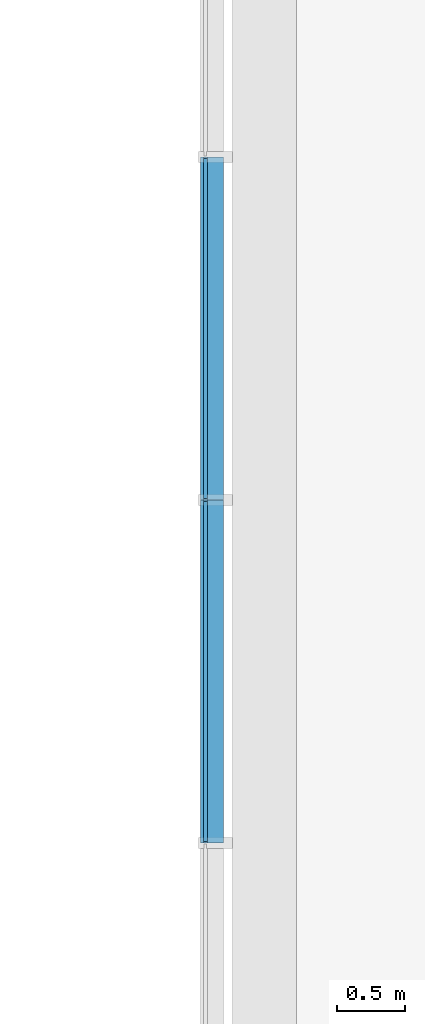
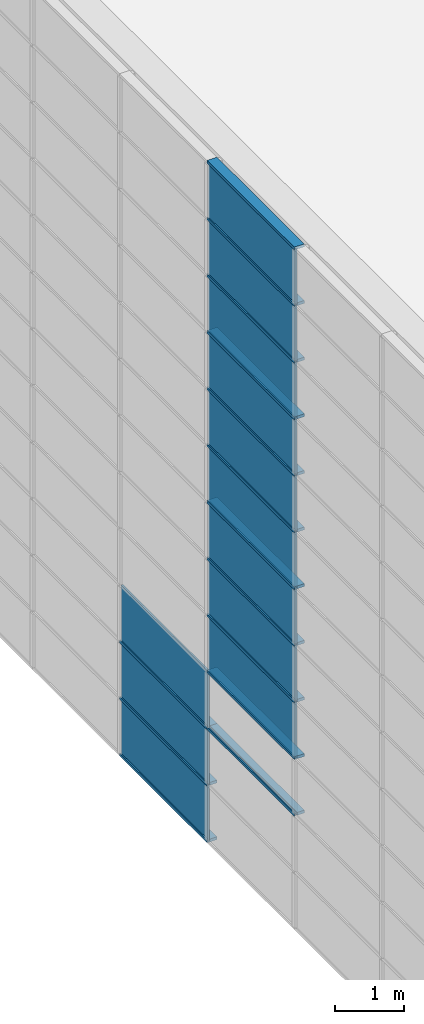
# One storey, part 10 of 105: 29 building element parts, 4 elements without a shape of their own.
"""IFC4 building model written with IfcOpenShell, lengths in millimetres."""

from ifc_helpers import new_model, entity, si_unit, converted_unit, derived_unit, direction, frame, origin_with_axes, place, context, subcontext, project, spatial, triangles, material, element, aggregate, save


model = new_model("IFC4")

# Units and contexts
model_context = context("Model", 3, precision=1e-05, world=origin_with_axes(), true_north=direction((0.0, 1.0)))
body_context = subcontext(model_context, "Body", "Model", "MODEL_VIEW")
ifc_project = project(units=[si_unit("LENGTHUNIT", "METRE", prefix="MILLI"), si_unit("AREAUNIT", "SQUARE_METRE"), si_unit("VOLUMEUNIT", "CUBIC_METRE"), converted_unit("PLANEANGLEUNIT", "DEGREE", entity("IfcLengthMeasure", 0.017453), si_unit("PLANEANGLEUNIT", "RADIAN"), dimensions=[0, 0, 0, 0, 0, 0, 0]), si_unit("SOLIDANGLEUNIT", "STERADIAN"), si_unit("MASSUNIT", "GRAM"), si_unit("TIMEUNIT", "SECOND"), si_unit("THERMODYNAMICTEMPERATUREUNIT", "DEGREE_CELSIUS"), si_unit("LUMINOUSINTENSITYUNIT", "LUMEN"), si_unit("POWERUNIT", "WATT"), derived_unit("THERMALTRANSMITTANCEUNIT", [(si_unit("POWERUNIT", "WATT"), 1), (si_unit("THERMODYNAMICTEMPERATUREUNIT", "KELVIN"), -1), (si_unit("AREAUNIT", "SQUARE_METRE"), -1)])], contexts=[model_context])

# Site, building, storey
site_placement = place(None, origin_with_axes())
site = spatial("IfcSite", under=ifc_project, at=site_placement, Name="Default Site", CompositionType="ELEMENT")
building_placement = place(site_placement, origin_with_axes())
building = spatial("IfcBuilding", under=site, at=building_placement, Name="Default Building", CompositionType="ELEMENT")
storey_placement = place(building_placement, origin_with_axes())
storey = spatial("IfcBuildingStorey", under=building, at=storey_placement, Name="OG - Story", CompositionType="ELEMENT", Elevation=0.0)

# Curtain wall, building element parts
curtain_wall_1_placement = place(storey_placement, origin_with_axes())
curtain_wall_1 = element("IfcCurtainWall", 1, at=curtain_wall_1_placement, inside=storey, Name="Fassade-003", PredefinedType="NOTDEFINED")
ifc_material_1 = material(Name="Normalglas")
building_element_part_1_placement = place(curtain_wall_1_placement, frame((31551.391327, -51326.104944, 0.0), z_axis=(0.0, 0.0, 1.0), x_axis=(1.0, 0.0, 0.0)))
building_element_part_1 = element("IfcBuildingElementPart", 2, at=building_element_part_1_placement, material=ifc_material_1, Name="Normalglas", PredefinedType="NOTDEFINED", context=body_context, shape_type="Tessellation", body=[
    triangles([(15.0, 13884.737, 995.0), (-14.999, 13884.737, 995.0), (-14.999, 11378.421, 995.0), (15.0, 11378.421, 995.0), (15.0, 13884.737, 5.0), (-14.999, 13884.737, 5.0), (-14.999, 11378.421, 5.0), (15.0, 11378.421, 5.0)], [[1, 2, 3], [1, 3, 4], [5, 6, 2], [5, 2, 1], [2, 6, 7], [2, 7, 3], [4, 3, 7], [4, 7, 8], [1, 4, 8], [1, 8, 5], [8, 7, 6], [8, 6, 5]], closed=False),
])
building_element_part_2_placement = place(curtain_wall_1_placement, frame((31551.391327, -51326.104944, 0.0), z_axis=(0.0, 0.0, 1.0), x_axis=(1.0, 0.0, 0.0)))
building_element_part_2 = element("IfcBuildingElementPart", 3, at=building_element_part_2_placement, material=ifc_material_1, Name="Normalglas", PredefinedType="NOTDEFINED", context=body_context, shape_type="Tessellation", body=[
    triangles([(15.0, 13884.737, 1995.0), (-14.999, 13884.737, 1995.0), (-14.999, 11378.421, 1995.0), (15.0, 11378.421, 1995.0), (15.0, 13884.737, 1005.0), (-14.999, 13884.737, 1005.0), (-14.999, 11378.421, 1005.0), (15.0, 11378.421, 1005.0)], [[1, 2, 3], [1, 3, 4], [5, 6, 2], [5, 2, 1], [2, 6, 7], [2, 7, 3], [4, 3, 7], [4, 7, 8], [1, 4, 8], [1, 8, 5], [8, 7, 6], [8, 6, 5]], closed=False),
])
building_element_part_3_placement = place(curtain_wall_1_placement, frame((31551.391327, -51326.104944, 0.0), z_axis=(0.0, 0.0, 1.0), x_axis=(1.0, 0.0, 0.0)))
building_element_part_3 = element("IfcBuildingElementPart", 4, at=building_element_part_3_placement, material=ifc_material_1, Name="Normalglas", PredefinedType="NOTDEFINED", context=body_context, shape_type="Tessellation", body=[
    triangles([(15.0, 13884.737, 2995.0), (-14.999, 13884.737, 2995.0), (-14.999, 11378.421, 2995.0), (15.0, 11378.421, 2995.0), (15.0, 13884.737, 2005.0), (-14.999, 13884.737, 2005.0), (-14.999, 11378.421, 2005.0), (15.0, 11378.421, 2005.0)], [[1, 2, 3], [1, 3, 4], [5, 6, 2], [5, 2, 1], [2, 6, 7], [2, 7, 3], [4, 3, 7], [4, 7, 8], [1, 4, 8], [1, 8, 5], [8, 7, 6], [8, 6, 5]], closed=False),
])
ifc_material_2 = material(Name="Blech")
building_element_part_4_placement = place(curtain_wall_1_placement, frame((31551.391327, -51326.104944, 0.0), z_axis=(0.0, 0.0, 1.0), x_axis=(1.0, 0.0, 0.0)))
building_element_part_4 = element("IfcBuildingElementPart", 5, at=building_element_part_4_placement, material=ifc_material_2, Name="Blech", PredefinedType="NOTDEFINED", context=body_context, shape_type="Tessellation", body=[
    triangles([(15.0, 13894.737, 25.0), (133.0, 13894.737, 25.0), (15.0, 13894.737, 5.0), (133.0, 13894.737, -24.999), (-14.999, 13894.737, 5.0), (-34.999, 13894.737, -24.999), (-34.999, 13894.737, 25.0), (-14.999, 13894.737, 25.0), (15.0, 11368.421, 5.0), (15.0, 11368.421, 25.0), (133.0, 11368.421, 25.0), (133.0, 11368.421, -24.999), (-34.999, 11368.421, -24.999), (-34.999, 11368.421, 25.0), (-14.999, 11368.421, 25.0), (-14.999, 11368.421, 5.0)], [[1, 2, 3], [3, 2, 4], [3, 4, 5], [5, 4, 6], [5, 6, 7], [5, 7, 8], [3, 9, 10], [3, 10, 1], [10, 11, 2], [10, 2, 1], [11, 12, 4], [11, 4, 2], [12, 13, 6], [12, 6, 4], [13, 14, 7], [13, 7, 6], [8, 7, 14], [8, 14, 15], [15, 16, 5], [15, 5, 8], [5, 16, 9], [5, 9, 3], [16, 9, 12], [16, 12, 13], [16, 13, 14], [16, 14, 15], [11, 12, 9], [11, 9, 10]], closed=False),
])
building_element_part_5_placement = place(curtain_wall_1_placement, frame((31551.391327, -51326.104944, 0.0), z_axis=(0.0, 0.0, 1.0), x_axis=(1.0, 0.0, 0.0)))
building_element_part_5 = element("IfcBuildingElementPart", 6, at=building_element_part_5_placement, material=ifc_material_2, Name="Blech", PredefinedType="NOTDEFINED", context=body_context, shape_type="Tessellation", body=[
    triangles([(-14.999, 13894.737, 1025.0), (-34.999, 13894.737, 1025.0), (-14.999, 13894.737, 1005.0), (-14.999, 13894.737, 995.0), (15.0, 13894.737, 1005.0), (133.0, 13894.737, 1025.0), (15.0, 13894.737, 1025.0), (-34.999, 13894.737, 975.0), (-14.999, 13894.737, 975.0), (15.0, 13894.737, 995.0), (15.0, 13894.737, 975.0), (133.0, 13894.737, 975.0), (15.0, 11368.421, 995.0), (-14.999, 11368.421, 995.0), (-14.999, 11368.421, 975.0), (-34.999, 11368.421, 975.0), (-34.999, 11368.421, 1025.0), (-14.999, 11368.421, 1025.0), (-14.999, 11368.421, 1005.0), (15.0, 11368.421, 1005.0), (15.0, 11368.421, 1025.0), (133.0, 11368.421, 1025.0), (133.0, 11368.421, 975.0), (15.0, 11368.421, 975.0)], [[1, 2, 3], [3, 2, 4], [3, 4, 5], [5, 4, 6], [5, 6, 7], [8, 9, 4], [8, 4, 2], [6, 4, 10], [6, 10, 11], [6, 11, 12], [10, 13, 14], [10, 14, 4], [4, 14, 15], [4, 15, 9], [15, 16, 8], [15, 8, 9], [8, 16, 17], [8, 17, 2], [18, 1, 2], [18, 2, 17], [1, 18, 19], [1, 19, 3], [5, 3, 19], [5, 19, 20], [7, 5, 20], [7, 20, 21], [7, 21, 22], [7, 22, 6], [6, 22, 23], [6, 23, 12], [11, 12, 23], [11, 23, 24], [11, 24, 13], [11, 13, 10], [21, 22, 20], [20, 22, 13], [20, 13, 19], [19, 13, 14], [19, 14, 17], [17, 14, 15], [17, 15, 16], [23, 24, 13], [23, 13, 22], [19, 17, 18]], closed=False),
])
building_element_part_6_placement = place(curtain_wall_1_placement, frame((31551.391327, -51326.104944, 0.0), z_axis=(0.0, 0.0, 1.0), x_axis=(1.0, 0.0, 0.0)))
building_element_part_6 = element("IfcBuildingElementPart", 7, at=building_element_part_6_placement, material=ifc_material_2, Name="Blech", PredefinedType="NOTDEFINED", context=body_context, shape_type="Tessellation", body=[
    triangles([(-14.999, 11368.421, 2025.0), (-34.999, 11368.421, 2025.0), (-14.999, 11368.421, 2005.0), (-14.999, 11368.421, 1995.0), (15.0, 11368.421, 2005.0), (133.0, 11368.421, 2025.0), (15.0, 11368.421, 2025.0), (-34.999, 11368.421, 1975.0), (-14.999, 11368.421, 1975.0), (15.0, 11368.421, 1995.0), (15.0, 11368.421, 1975.0), (133.0, 11368.421, 1975.0), (15.0, 8842.105, 1995.0), (-14.999, 8842.105, 1995.0), (-14.999, 8842.105, 1975.0), (-34.999, 8842.105, 1975.0), (-34.999, 8842.105, 2025.0), (-14.999, 8842.105, 2025.0), (-14.999, 8842.105, 2005.0), (15.0, 8842.105, 2005.0), (15.0, 8842.105, 2025.0), (133.0, 8842.105, 2025.0), (133.0, 8842.105, 1975.0), (15.0, 8842.105, 1975.0)], [[1, 2, 3], [3, 2, 4], [3, 4, 5], [5, 4, 6], [5, 6, 7], [8, 9, 4], [8, 4, 2], [6, 4, 10], [6, 10, 11], [6, 11, 12], [10, 13, 14], [10, 14, 4], [4, 14, 15], [4, 15, 9], [15, 16, 8], [15, 8, 9], [8, 16, 17], [8, 17, 2], [18, 1, 2], [18, 2, 17], [1, 18, 19], [1, 19, 3], [5, 3, 19], [5, 19, 20], [7, 5, 20], [7, 20, 21], [7, 21, 22], [7, 22, 6], [6, 22, 23], [6, 23, 12], [11, 12, 23], [11, 23, 24], [11, 24, 13], [11, 13, 10], [21, 22, 20], [20, 22, 13], [20, 13, 19], [19, 13, 14], [19, 14, 17], [17, 14, 15], [17, 15, 16], [23, 24, 13], [23, 13, 22], [19, 17, 18]], closed=False),
])
building_element_part_7_placement = place(curtain_wall_1_placement, frame((31551.391327, -51326.104944, 0.0), z_axis=(0.0, 0.0, 1.0), x_axis=(1.0, 0.0, 0.0)))
building_element_part_7 = element("IfcBuildingElementPart", 8, at=building_element_part_7_placement, material=ifc_material_2, Name="Blech", PredefinedType="NOTDEFINED", context=body_context, shape_type="Tessellation", body=[
    triangles([(-14.999, 11368.421, 2995.0), (15.0, 11368.421, 2995.0), (133.0, 11368.421, 3025.0), (-34.999, 11368.421, 3025.0), (-34.999, 11368.421, 2975.0), (-14.999, 11368.421, 2975.0), (15.0, 11368.421, 2975.0), (133.0, 11368.421, 2975.0), (15.0, 8842.105, 2995.0), (-14.999, 8842.105, 2995.0), (-14.999, 8842.105, 2975.0), (-34.999, 8842.105, 2975.0), (-34.999, 8842.105, 3025.0), (133.0, 8842.105, 3025.0), (133.0, 8842.105, 2975.0), (15.0, 8842.105, 2975.0)], [[1, 2, 3], [1, 3, 4], [1, 4, 5], [1, 5, 6], [7, 8, 3], [7, 3, 2], [1, 2, 9], [1, 9, 10], [11, 6, 1], [11, 1, 10], [6, 11, 12], [6, 12, 5], [13, 4, 5], [13, 5, 12], [14, 3, 4], [14, 4, 13], [15, 8, 3], [15, 3, 14], [16, 7, 8], [16, 8, 15], [2, 7, 16], [2, 16, 9], [10, 9, 14], [10, 14, 13], [10, 13, 12], [10, 12, 11], [16, 15, 14], [16, 14, 9]], closed=False),
])
building_element_part_8_placement = place(curtain_wall_1_placement, frame((31551.391327, -51326.104944, 0.0), z_axis=(0.0, 0.0, 1.0), x_axis=(1.0, 0.0, 0.0)))
building_element_part_8 = element("IfcBuildingElementPart", 9, at=building_element_part_8_placement, material=ifc_material_2, Name="Blech", PredefinedType="NOTDEFINED", context=body_context, shape_type="Tessellation", body=[
    triangles([(-14.999, 13894.737, 2025.0), (-34.999, 13894.737, 2025.0), (-14.999, 13894.737, 2005.0), (-14.999, 13894.737, 1995.0), (15.0, 13894.737, 2005.0), (133.0, 13894.737, 2025.0), (15.0, 13894.737, 2025.0), (-34.999, 13894.737, 1975.0), (-14.999, 13894.737, 1975.0), (15.0, 13894.737, 1995.0), (15.0, 13894.737, 1975.0), (133.0, 13894.737, 1975.0), (15.0, 11368.421, 1995.0), (-14.999, 11368.421, 1995.0), (-14.999, 11368.421, 1975.0), (-34.999, 11368.421, 1975.0), (-34.999, 11368.421, 2025.0), (-14.999, 11368.421, 2025.0), (-14.999, 11368.421, 2005.0), (15.0, 11368.421, 2005.0), (15.0, 11368.421, 2025.0), (133.0, 11368.421, 2025.0), (133.0, 11368.421, 1975.0), (15.0, 11368.421, 1975.0)], [[1, 2, 3], [3, 2, 4], [3, 4, 5], [5, 4, 6], [5, 6, 7], [8, 9, 4], [8, 4, 2], [6, 4, 10], [6, 10, 11], [6, 11, 12], [10, 13, 14], [10, 14, 4], [4, 14, 15], [4, 15, 9], [15, 16, 8], [15, 8, 9], [8, 16, 17], [8, 17, 2], [18, 1, 2], [18, 2, 17], [1, 18, 19], [1, 19, 3], [5, 3, 19], [5, 19, 20], [7, 5, 20], [7, 20, 21], [7, 21, 22], [7, 22, 6], [6, 22, 23], [6, 23, 12], [11, 12, 23], [11, 23, 24], [11, 24, 13], [11, 13, 10], [21, 22, 20], [20, 22, 13], [20, 13, 19], [19, 13, 14], [19, 14, 17], [17, 14, 15], [17, 15, 16], [23, 24, 13], [23, 13, 22], [19, 17, 18]], closed=False),
])
aggregate(curtain_wall_1, [building_element_part_1, building_element_part_2, building_element_part_3, building_element_part_4, building_element_part_5, building_element_part_6, building_element_part_7, building_element_part_8])

curtain_wall_2_placement = place(storey_placement, origin_with_axes())
curtain_wall_2 = element("IfcCurtainWall", 10, at=curtain_wall_2_placement, inside=storey, Name="Fassade-003", PredefinedType="NOTDEFINED")
building_element_part_9_placement = place(curtain_wall_2_placement, frame((31551.391327, -51326.104944, 3000.0), z_axis=(0.0, 0.0, 1.0), x_axis=(1.0, 0.0, 0.0)))
building_element_part_9 = element("IfcBuildingElementPart", 11, at=building_element_part_9_placement, material=ifc_material_1, Name="Normalglas", PredefinedType="NOTDEFINED", context=body_context, shape_type="Tessellation", body=[
    triangles([(15.0, 11358.421, 995.0), (-14.999, 11358.421, 995.0), (-14.999, 8852.105, 995.0), (15.0, 8852.105, 995.0), (15.0, 11358.421, 5.0), (-14.999, 11358.421, 5.0), (-14.999, 8852.105, 5.0), (15.0, 8852.105, 5.0)], [[1, 2, 3], [1, 3, 4], [5, 6, 2], [5, 2, 1], [2, 6, 7], [2, 7, 3], [4, 3, 7], [4, 7, 8], [1, 4, 8], [1, 8, 5], [8, 7, 6], [8, 6, 5]], closed=False),
])
building_element_part_10_placement = place(curtain_wall_2_placement, frame((31551.391327, -51326.104944, 3000.0), z_axis=(0.0, 0.0, 1.0), x_axis=(1.0, 0.0, 0.0)))
building_element_part_10 = element("IfcBuildingElementPart", 12, at=building_element_part_10_placement, material=ifc_material_1, Name="Normalglas", PredefinedType="NOTDEFINED", context=body_context, shape_type="Tessellation", body=[
    triangles([(15.0, 11358.421, 1995.0), (-14.999, 11358.421, 1995.0), (-14.999, 8852.105, 1995.0), (15.0, 8852.105, 1995.0), (15.0, 11358.421, 1005.0), (-14.999, 11358.421, 1005.0), (-14.999, 8852.105, 1005.0), (15.0, 8852.105, 1005.0)], [[1, 2, 3], [1, 3, 4], [5, 6, 2], [5, 2, 1], [2, 6, 7], [2, 7, 3], [4, 3, 7], [4, 7, 8], [1, 4, 8], [1, 8, 5], [8, 7, 6], [8, 6, 5]], closed=False),
])
building_element_part_11_placement = place(curtain_wall_2_placement, frame((31551.391327, -51326.104944, 3000.0), z_axis=(0.0, 0.0, 1.0), x_axis=(1.0, 0.0, 0.0)))
building_element_part_11 = element("IfcBuildingElementPart", 13, at=building_element_part_11_placement, material=ifc_material_1, Name="Normalglas", PredefinedType="NOTDEFINED", context=body_context, shape_type="Tessellation", body=[
    triangles([(15.0, 11358.421, 2995.0), (-14.999, 11358.421, 2995.0), (-14.999, 8852.105, 2995.0), (15.0, 8852.105, 2995.0), (15.0, 11358.421, 2005.0), (-14.999, 11358.421, 2005.0), (-14.999, 8852.105, 2005.0), (15.0, 8852.105, 2005.0)], [[1, 2, 3], [1, 3, 4], [5, 6, 2], [5, 2, 1], [2, 6, 7], [2, 7, 3], [4, 3, 7], [4, 7, 8], [1, 4, 8], [1, 8, 5], [8, 7, 6], [8, 6, 5]], closed=False),
])
building_element_part_12_placement = place(curtain_wall_2_placement, frame((31551.391327, -51326.104944, 3000.0), z_axis=(0.0, 0.0, 1.0), x_axis=(1.0, 0.0, 0.0)))
building_element_part_12 = element("IfcBuildingElementPart", 14, at=building_element_part_12_placement, material=ifc_material_2, Name="Blech", PredefinedType="NOTDEFINED", context=body_context, shape_type="Tessellation", body=[
    triangles([(15.0, 11368.421, 25.0), (133.0, 11368.421, 25.0), (15.0, 11368.421, 5.0), (133.0, 11368.421, -24.999), (-14.999, 11368.421, 5.0), (-34.999, 11368.421, -24.999), (-34.999, 11368.421, 25.0), (-14.999, 11368.421, 25.0), (15.0, 8842.105, 5.0), (15.0, 8842.105, 25.0), (133.0, 8842.105, 25.0), (133.0, 8842.105, -24.999), (-34.999, 8842.105, -24.999), (-34.999, 8842.105, 25.0), (-14.999, 8842.105, 25.0), (-14.999, 8842.105, 5.0)], [[1, 2, 3], [3, 2, 4], [3, 4, 5], [5, 4, 6], [5, 6, 7], [5, 7, 8], [3, 9, 10], [3, 10, 1], [10, 11, 2], [10, 2, 1], [11, 12, 4], [11, 4, 2], [12, 13, 6], [12, 6, 4], [13, 14, 7], [13, 7, 6], [8, 7, 14], [8, 14, 15], [15, 16, 5], [15, 5, 8], [5, 16, 9], [5, 9, 3], [16, 9, 12], [16, 12, 13], [16, 13, 14], [16, 14, 15], [11, 12, 9], [11, 9, 10]], closed=False),
])
building_element_part_13_placement = place(curtain_wall_2_placement, frame((31551.391327, -51326.104944, 3000.0), z_axis=(0.0, 0.0, 1.0), x_axis=(1.0, 0.0, 0.0)))
building_element_part_13 = element("IfcBuildingElementPart", 15, at=building_element_part_13_placement, material=ifc_material_2, Name="Blech", PredefinedType="NOTDEFINED", context=body_context, shape_type="Tessellation", body=[
    triangles([(-14.999, 11368.421, 1025.0), (-34.999, 11368.421, 1025.0), (-14.999, 11368.421, 1005.0), (-14.999, 11368.421, 995.0), (15.0, 11368.421, 1005.0), (133.0, 11368.421, 1025.0), (15.0, 11368.421, 1025.0), (-34.999, 11368.421, 975.0), (-14.999, 11368.421, 975.0), (15.0, 11368.421, 995.0), (15.0, 11368.421, 975.0), (133.0, 11368.421, 975.0), (15.0, 8842.105, 995.0), (-14.999, 8842.105, 995.0), (-14.999, 8842.105, 975.0), (-34.999, 8842.105, 975.0), (-34.999, 8842.105, 1025.0), (-14.999, 8842.105, 1025.0), (-14.999, 8842.105, 1005.0), (15.0, 8842.105, 1005.0), (15.0, 8842.105, 1025.0), (133.0, 8842.105, 1025.0), (133.0, 8842.105, 975.0), (15.0, 8842.105, 975.0)], [[1, 2, 3], [3, 2, 4], [3, 4, 5], [5, 4, 6], [5, 6, 7], [8, 9, 4], [8, 4, 2], [6, 4, 10], [6, 10, 11], [6, 11, 12], [10, 13, 14], [10, 14, 4], [4, 14, 15], [4, 15, 9], [15, 16, 8], [15, 8, 9], [8, 16, 17], [8, 17, 2], [18, 1, 2], [18, 2, 17], [1, 18, 19], [1, 19, 3], [5, 3, 19], [5, 19, 20], [7, 5, 20], [7, 20, 21], [7, 21, 22], [7, 22, 6], [6, 22, 23], [6, 23, 12], [11, 12, 23], [11, 23, 24], [11, 24, 13], [11, 13, 10], [21, 22, 20], [20, 22, 13], [20, 13, 19], [19, 13, 14], [19, 14, 17], [17, 14, 15], [17, 15, 16], [23, 24, 13], [23, 13, 22], [19, 17, 18]], closed=False),
])
building_element_part_14_placement = place(curtain_wall_2_placement, frame((31551.391327, -51326.104944, 3000.0), z_axis=(0.0, 0.0, 1.0), x_axis=(1.0, 0.0, 0.0)))
building_element_part_14 = element("IfcBuildingElementPart", 16, at=building_element_part_14_placement, material=ifc_material_2, Name="Blech", PredefinedType="NOTDEFINED", context=body_context, shape_type="Tessellation", body=[
    triangles([(-14.999, 11368.421, 2025.0), (-34.999, 11368.421, 2025.0), (-14.999, 11368.421, 2005.0), (-14.999, 11368.421, 1995.0), (15.0, 11368.421, 2005.0), (133.0, 11368.421, 2025.0), (15.0, 11368.421, 2025.0), (-34.999, 11368.421, 1975.0), (-14.999, 11368.421, 1975.0), (15.0, 11368.421, 1995.0), (15.0, 11368.421, 1975.0), (133.0, 11368.421, 1975.0), (15.0, 8842.105, 1995.0), (-14.999, 8842.105, 1995.0), (-14.999, 8842.105, 1975.0), (-34.999, 8842.105, 1975.0), (-34.999, 8842.105, 2025.0), (-14.999, 8842.105, 2025.0), (-14.999, 8842.105, 2005.0), (15.0, 8842.105, 2005.0), (15.0, 8842.105, 2025.0), (133.0, 8842.105, 2025.0), (133.0, 8842.105, 1975.0), (15.0, 8842.105, 1975.0)], [[1, 2, 3], [3, 2, 4], [3, 4, 5], [5, 4, 6], [5, 6, 7], [8, 9, 4], [8, 4, 2], [6, 4, 10], [6, 10, 11], [6, 11, 12], [10, 13, 14], [10, 14, 4], [4, 14, 15], [4, 15, 9], [15, 16, 8], [15, 8, 9], [8, 16, 17], [8, 17, 2], [18, 1, 2], [18, 2, 17], [1, 18, 19], [1, 19, 3], [5, 3, 19], [5, 19, 20], [7, 5, 20], [7, 20, 21], [7, 21, 22], [7, 22, 6], [6, 22, 23], [6, 23, 12], [11, 12, 23], [11, 23, 24], [11, 24, 13], [11, 13, 10], [21, 22, 20], [20, 22, 13], [20, 13, 19], [19, 13, 14], [19, 14, 17], [17, 14, 15], [17, 15, 16], [23, 24, 13], [23, 13, 22], [19, 17, 18]], closed=False),
])
building_element_part_15_placement = place(curtain_wall_2_placement, frame((31551.391327, -51326.104944, 3000.0), z_axis=(0.0, 0.0, 1.0), x_axis=(1.0, 0.0, 0.0)))
building_element_part_15 = element("IfcBuildingElementPart", 17, at=building_element_part_15_placement, material=ifc_material_2, Name="Blech", PredefinedType="NOTDEFINED", context=body_context, shape_type="Tessellation", body=[
    triangles([(-14.999, 11368.421, 2995.0), (15.0, 11368.421, 2995.0), (133.0, 11368.421, 3025.0), (-34.999, 11368.421, 3025.0), (-34.999, 11368.421, 2975.0), (-14.999, 11368.421, 2975.0), (15.0, 11368.421, 2975.0), (133.0, 11368.421, 2975.0), (15.0, 8842.105, 2995.0), (-14.999, 8842.105, 2995.0), (-14.999, 8842.105, 2975.0), (-34.999, 8842.105, 2975.0), (-34.999, 8842.105, 3025.0), (133.0, 8842.105, 3025.0), (133.0, 8842.105, 2975.0), (15.0, 8842.105, 2975.0)], [[1, 2, 3], [1, 3, 4], [1, 4, 5], [1, 5, 6], [7, 8, 3], [7, 3, 2], [1, 2, 9], [1, 9, 10], [11, 6, 1], [11, 1, 10], [6, 11, 12], [6, 12, 5], [13, 4, 5], [13, 5, 12], [14, 3, 4], [14, 4, 13], [15, 8, 3], [15, 3, 14], [16, 7, 8], [16, 8, 15], [2, 7, 16], [2, 16, 9], [10, 9, 14], [10, 14, 13], [10, 13, 12], [10, 12, 11], [16, 15, 14], [16, 14, 9]], closed=False),
])
aggregate(curtain_wall_2, [building_element_part_9, building_element_part_10, building_element_part_11, building_element_part_12, building_element_part_13, building_element_part_14, building_element_part_15])

curtain_wall_3_placement = place(storey_placement, origin_with_axes())
curtain_wall_3 = element("IfcCurtainWall", 18, at=curtain_wall_3_placement, inside=storey, Name="Fassade-003", PredefinedType="NOTDEFINED")
building_element_part_16_placement = place(curtain_wall_3_placement, frame((31551.391327, -51326.104944, 6000.0), z_axis=(0.0, 0.0, 1.0), x_axis=(1.0, 0.0, 0.0)))
building_element_part_16 = element("IfcBuildingElementPart", 19, at=building_element_part_16_placement, material=ifc_material_1, Name="Normalglas", PredefinedType="NOTDEFINED", context=body_context, shape_type="Tessellation", body=[
    triangles([(15.0, 11358.421, 995.0), (-14.999, 11358.421, 995.0), (-14.999, 8852.105, 995.0), (15.0, 8852.105, 995.0), (15.0, 11358.421, 5.0), (-14.999, 11358.421, 5.0), (-14.999, 8852.105, 5.0), (15.0, 8852.105, 5.0)], [[1, 2, 3], [1, 3, 4], [5, 6, 2], [5, 2, 1], [2, 6, 7], [2, 7, 3], [4, 3, 7], [4, 7, 8], [1, 4, 8], [1, 8, 5], [8, 7, 6], [8, 6, 5]], closed=False),
])
building_element_part_17_placement = place(curtain_wall_3_placement, frame((31551.391327, -51326.104944, 6000.0), z_axis=(0.0, 0.0, 1.0), x_axis=(1.0, 0.0, 0.0)))
building_element_part_17 = element("IfcBuildingElementPart", 20, at=building_element_part_17_placement, material=ifc_material_1, Name="Normalglas", PredefinedType="NOTDEFINED", context=body_context, shape_type="Tessellation", body=[
    triangles([(15.0, 11358.421, 1995.0), (-14.999, 11358.421, 1995.0), (-14.999, 8852.105, 1995.0), (15.0, 8852.105, 1995.0), (15.0, 11358.421, 1005.0), (-14.999, 11358.421, 1005.0), (-14.999, 8852.105, 1005.0), (15.0, 8852.105, 1005.0)], [[1, 2, 3], [1, 3, 4], [5, 6, 2], [5, 2, 1], [2, 6, 7], [2, 7, 3], [4, 3, 7], [4, 7, 8], [1, 4, 8], [1, 8, 5], [8, 7, 6], [8, 6, 5]], closed=False),
])
building_element_part_18_placement = place(curtain_wall_3_placement, frame((31551.391327, -51326.104944, 6000.0), z_axis=(0.0, 0.0, 1.0), x_axis=(1.0, 0.0, 0.0)))
building_element_part_18 = element("IfcBuildingElementPart", 21, at=building_element_part_18_placement, material=ifc_material_1, Name="Normalglas", PredefinedType="NOTDEFINED", context=body_context, shape_type="Tessellation", body=[
    triangles([(15.0, 11358.421, 2995.0), (-14.999, 11358.421, 2995.0), (-14.999, 8852.105, 2995.0), (15.0, 8852.105, 2995.0), (15.0, 11358.421, 2005.0), (-14.999, 11358.421, 2005.0), (-14.999, 8852.105, 2005.0), (15.0, 8852.105, 2005.0)], [[1, 2, 3], [1, 3, 4], [5, 6, 2], [5, 2, 1], [2, 6, 7], [2, 7, 3], [4, 3, 7], [4, 7, 8], [1, 4, 8], [1, 8, 5], [8, 7, 6], [8, 6, 5]], closed=False),
])
building_element_part_19_placement = place(curtain_wall_3_placement, frame((31551.391327, -51326.104944, 6000.0), z_axis=(0.0, 0.0, 1.0), x_axis=(1.0, 0.0, 0.0)))
building_element_part_19 = element("IfcBuildingElementPart", 22, at=building_element_part_19_placement, material=ifc_material_2, Name="Blech", PredefinedType="NOTDEFINED", context=body_context, shape_type="Tessellation", body=[
    triangles([(15.0, 11368.421, 25.0), (133.0, 11368.421, 25.0), (15.0, 11368.421, 5.0), (133.0, 11368.421, -24.999), (-14.999, 11368.421, 5.0), (-34.999, 11368.421, -24.999), (-34.999, 11368.421, 25.0), (-14.999, 11368.421, 25.0), (15.0, 8842.105, 5.0), (15.0, 8842.105, 25.0), (133.0, 8842.105, 25.0), (133.0, 8842.105, -24.999), (-34.999, 8842.105, -24.999), (-34.999, 8842.105, 25.0), (-14.999, 8842.105, 25.0), (-14.999, 8842.105, 5.0)], [[1, 2, 3], [3, 2, 4], [3, 4, 5], [5, 4, 6], [5, 6, 7], [5, 7, 8], [3, 9, 10], [3, 10, 1], [10, 11, 2], [10, 2, 1], [11, 12, 4], [11, 4, 2], [12, 13, 6], [12, 6, 4], [13, 14, 7], [13, 7, 6], [8, 7, 14], [8, 14, 15], [15, 16, 5], [15, 5, 8], [5, 16, 9], [5, 9, 3], [16, 9, 12], [16, 12, 13], [16, 13, 14], [16, 14, 15], [11, 12, 9], [11, 9, 10]], closed=False),
])
building_element_part_20_placement = place(curtain_wall_3_placement, frame((31551.391327, -51326.104944, 6000.0), z_axis=(0.0, 0.0, 1.0), x_axis=(1.0, 0.0, 0.0)))
building_element_part_20 = element("IfcBuildingElementPart", 23, at=building_element_part_20_placement, material=ifc_material_2, Name="Blech", PredefinedType="NOTDEFINED", context=body_context, shape_type="Tessellation", body=[
    triangles([(-14.999, 11368.421, 1025.0), (-34.999, 11368.421, 1025.0), (-14.999, 11368.421, 1005.0), (-14.999, 11368.421, 995.0), (15.0, 11368.421, 1005.0), (133.0, 11368.421, 1025.0), (15.0, 11368.421, 1025.0), (-34.999, 11368.421, 975.0), (-14.999, 11368.421, 975.0), (15.0, 11368.421, 995.0), (15.0, 11368.421, 975.0), (133.0, 11368.421, 975.0), (15.0, 8842.105, 995.0), (-14.999, 8842.105, 995.0), (-14.999, 8842.105, 975.0), (-34.999, 8842.105, 975.0), (-34.999, 8842.105, 1025.0), (-14.999, 8842.105, 1025.0), (-14.999, 8842.105, 1005.0), (15.0, 8842.105, 1005.0), (15.0, 8842.105, 1025.0), (133.0, 8842.105, 1025.0), (133.0, 8842.105, 975.0), (15.0, 8842.105, 975.0)], [[1, 2, 3], [3, 2, 4], [3, 4, 5], [5, 4, 6], [5, 6, 7], [8, 9, 4], [8, 4, 2], [6, 4, 10], [6, 10, 11], [6, 11, 12], [10, 13, 14], [10, 14, 4], [4, 14, 15], [4, 15, 9], [15, 16, 8], [15, 8, 9], [8, 16, 17], [8, 17, 2], [18, 1, 2], [18, 2, 17], [1, 18, 19], [1, 19, 3], [5, 3, 19], [5, 19, 20], [7, 5, 20], [7, 20, 21], [7, 21, 22], [7, 22, 6], [6, 22, 23], [6, 23, 12], [11, 12, 23], [11, 23, 24], [11, 24, 13], [11, 13, 10], [21, 22, 20], [20, 22, 13], [20, 13, 19], [19, 13, 14], [19, 14, 17], [17, 14, 15], [17, 15, 16], [23, 24, 13], [23, 13, 22], [19, 17, 18]], closed=False),
])
building_element_part_21_placement = place(curtain_wall_3_placement, frame((31551.391327, -51326.104944, 6000.0), z_axis=(0.0, 0.0, 1.0), x_axis=(1.0, 0.0, 0.0)))
building_element_part_21 = element("IfcBuildingElementPart", 24, at=building_element_part_21_placement, material=ifc_material_2, Name="Blech", PredefinedType="NOTDEFINED", context=body_context, shape_type="Tessellation", body=[
    triangles([(-14.999, 11368.421, 2025.0), (-34.999, 11368.421, 2025.0), (-14.999, 11368.421, 2005.0), (-14.999, 11368.421, 1995.0), (15.0, 11368.421, 2005.0), (133.0, 11368.421, 2025.0), (15.0, 11368.421, 2025.0), (-34.999, 11368.421, 1975.0), (-14.999, 11368.421, 1975.0), (15.0, 11368.421, 1995.0), (15.0, 11368.421, 1975.0), (133.0, 11368.421, 1975.0), (15.0, 8842.105, 1995.0), (-14.999, 8842.105, 1995.0), (-14.999, 8842.105, 1975.0), (-34.999, 8842.105, 1975.0), (-34.999, 8842.105, 2025.0), (-14.999, 8842.105, 2025.0), (-14.999, 8842.105, 2005.0), (15.0, 8842.105, 2005.0), (15.0, 8842.105, 2025.0), (133.0, 8842.105, 2025.0), (133.0, 8842.105, 1975.0), (15.0, 8842.105, 1975.0)], [[1, 2, 3], [3, 2, 4], [3, 4, 5], [5, 4, 6], [5, 6, 7], [8, 9, 4], [8, 4, 2], [6, 4, 10], [6, 10, 11], [6, 11, 12], [10, 13, 14], [10, 14, 4], [4, 14, 15], [4, 15, 9], [15, 16, 8], [15, 8, 9], [8, 16, 17], [8, 17, 2], [18, 1, 2], [18, 2, 17], [1, 18, 19], [1, 19, 3], [5, 3, 19], [5, 19, 20], [7, 5, 20], [7, 20, 21], [7, 21, 22], [7, 22, 6], [6, 22, 23], [6, 23, 12], [11, 12, 23], [11, 23, 24], [11, 24, 13], [11, 13, 10], [21, 22, 20], [20, 22, 13], [20, 13, 19], [19, 13, 14], [19, 14, 17], [17, 14, 15], [17, 15, 16], [23, 24, 13], [23, 13, 22], [19, 17, 18]], closed=False),
])
building_element_part_22_placement = place(curtain_wall_3_placement, frame((31551.391327, -51326.104944, 6000.0), z_axis=(0.0, 0.0, 1.0), x_axis=(1.0, 0.0, 0.0)))
building_element_part_22 = element("IfcBuildingElementPart", 25, at=building_element_part_22_placement, material=ifc_material_2, Name="Blech", PredefinedType="NOTDEFINED", context=body_context, shape_type="Tessellation", body=[
    triangles([(-14.999, 11368.421, 2995.0), (15.0, 11368.421, 2995.0), (133.0, 11368.421, 3025.0), (-34.999, 11368.421, 3025.0), (-34.999, 11368.421, 2975.0), (-14.999, 11368.421, 2975.0), (15.0, 11368.421, 2975.0), (133.0, 11368.421, 2975.0), (15.0, 8842.105, 2995.0), (-14.999, 8842.105, 2995.0), (-14.999, 8842.105, 2975.0), (-34.999, 8842.105, 2975.0), (-34.999, 8842.105, 3025.0), (133.0, 8842.105, 3025.0), (133.0, 8842.105, 2975.0), (15.0, 8842.105, 2975.0)], [[1, 2, 3], [1, 3, 4], [1, 4, 5], [1, 5, 6], [7, 8, 3], [7, 3, 2], [1, 2, 9], [1, 9, 10], [11, 6, 1], [11, 1, 10], [6, 11, 12], [6, 12, 5], [13, 4, 5], [13, 5, 12], [14, 3, 4], [14, 4, 13], [15, 8, 3], [15, 3, 14], [16, 7, 8], [16, 8, 15], [2, 7, 16], [2, 16, 9], [10, 9, 14], [10, 14, 13], [10, 13, 12], [10, 12, 11], [16, 15, 14], [16, 14, 9]], closed=False),
])
aggregate(curtain_wall_3, [building_element_part_16, building_element_part_17, building_element_part_18, building_element_part_19, building_element_part_20, building_element_part_21, building_element_part_22])

curtain_wall_4_placement = place(storey_placement, origin_with_axes())
curtain_wall_4 = element("IfcCurtainWall", 26, at=curtain_wall_4_placement, inside=storey, Name="Fassade-003", PredefinedType="NOTDEFINED")
building_element_part_23_placement = place(curtain_wall_4_placement, frame((31551.391327, -51326.104944, 9000.0), z_axis=(0.0, 0.0, 1.0), x_axis=(1.0, 0.0, 0.0)))
building_element_part_23 = element("IfcBuildingElementPart", 27, at=building_element_part_23_placement, material=ifc_material_1, Name="Normalglas", PredefinedType="NOTDEFINED", context=body_context, shape_type="Tessellation", body=[
    triangles([(15.0, 11358.421, 995.0), (-14.999, 11358.421, 995.0), (-14.999, 8852.105, 995.0), (15.0, 8852.105, 995.0), (15.0, 11358.421, 5.0), (-14.999, 11358.421, 5.0), (-14.999, 8852.105, 5.0), (15.0, 8852.105, 5.0)], [[1, 2, 3], [1, 3, 4], [5, 6, 2], [5, 2, 1], [2, 6, 7], [2, 7, 3], [4, 3, 7], [4, 7, 8], [1, 4, 8], [1, 8, 5], [8, 7, 6], [8, 6, 5]], closed=False),
])
building_element_part_24_placement = place(curtain_wall_4_placement, frame((31551.391327, -51326.104944, 9000.0), z_axis=(0.0, 0.0, 1.0), x_axis=(1.0, 0.0, 0.0)))
building_element_part_24 = element("IfcBuildingElementPart", 28, at=building_element_part_24_placement, material=ifc_material_1, Name="Normalglas", PredefinedType="NOTDEFINED", context=body_context, shape_type="Tessellation", body=[
    triangles([(15.0, 11358.421, 1995.0), (-14.999, 11358.421, 1995.0), (-14.999, 8852.105, 1995.0), (15.0, 8852.105, 1995.0), (15.0, 11358.421, 1005.0), (-14.999, 11358.421, 1005.0), (-14.999, 8852.105, 1005.0), (15.0, 8852.105, 1005.0)], [[1, 2, 3], [1, 3, 4], [5, 6, 2], [5, 2, 1], [2, 6, 7], [2, 7, 3], [4, 3, 7], [4, 7, 8], [1, 4, 8], [1, 8, 5], [8, 7, 6], [8, 6, 5]], closed=False),
])
building_element_part_25_placement = place(curtain_wall_4_placement, frame((31551.391327, -51326.104944, 9000.0), z_axis=(0.0, 0.0, 1.0), x_axis=(1.0, 0.0, 0.0)))
building_element_part_25 = element("IfcBuildingElementPart", 29, at=building_element_part_25_placement, material=ifc_material_1, Name="Normalglas", PredefinedType="NOTDEFINED", context=body_context, shape_type="Tessellation", body=[
    triangles([(15.0, 11358.421, 2995.0), (-14.999, 11358.421, 2995.0), (-14.999, 8852.105, 2995.0), (15.0, 8852.105, 2995.0), (15.0, 11358.421, 2005.0), (-14.999, 11358.421, 2005.0), (-14.999, 8852.105, 2005.0), (15.0, 8852.105, 2005.0)], [[1, 2, 3], [1, 3, 4], [5, 6, 2], [5, 2, 1], [2, 6, 7], [2, 7, 3], [4, 3, 7], [4, 7, 8], [1, 4, 8], [1, 8, 5], [8, 7, 6], [8, 6, 5]], closed=False),
])
building_element_part_26_placement = place(curtain_wall_4_placement, frame((31551.391327, -51326.104944, 9000.0), z_axis=(0.0, 0.0, 1.0), x_axis=(1.0, 0.0, 0.0)))
building_element_part_26 = element("IfcBuildingElementPart", 30, at=building_element_part_26_placement, material=ifc_material_2, Name="Blech", PredefinedType="NOTDEFINED", context=body_context, shape_type="Tessellation", body=[
    triangles([(15.0, 11368.421, 25.0), (133.0, 11368.421, 25.0), (15.0, 11368.421, 5.0), (133.0, 11368.421, -24.999), (-14.999, 11368.421, 5.0), (-34.999, 11368.421, -24.999), (-34.999, 11368.421, 25.0), (-14.999, 11368.421, 25.0), (15.0, 8842.105, 5.0), (15.0, 8842.105, 25.0), (133.0, 8842.105, 25.0), (133.0, 8842.105, -24.999), (-34.999, 8842.105, -24.999), (-34.999, 8842.105, 25.0), (-14.999, 8842.105, 25.0), (-14.999, 8842.105, 5.0)], [[1, 2, 3], [3, 2, 4], [3, 4, 5], [5, 4, 6], [5, 6, 7], [5, 7, 8], [3, 9, 10], [3, 10, 1], [10, 11, 2], [10, 2, 1], [11, 12, 4], [11, 4, 2], [12, 13, 6], [12, 6, 4], [13, 14, 7], [13, 7, 6], [8, 7, 14], [8, 14, 15], [15, 16, 5], [15, 5, 8], [5, 16, 9], [5, 9, 3], [16, 9, 12], [16, 12, 13], [16, 13, 14], [16, 14, 15], [11, 12, 9], [11, 9, 10]], closed=False),
])
building_element_part_27_placement = place(curtain_wall_4_placement, frame((31551.391327, -51326.104944, 9000.0), z_axis=(0.0, 0.0, 1.0), x_axis=(1.0, 0.0, 0.0)))
building_element_part_27 = element("IfcBuildingElementPart", 31, at=building_element_part_27_placement, material=ifc_material_2, Name="Blech", PredefinedType="NOTDEFINED", context=body_context, shape_type="Tessellation", body=[
    triangles([(-14.999, 11368.421, 1025.0), (-34.999, 11368.421, 1025.0), (-14.999, 11368.421, 1005.0), (-14.999, 11368.421, 995.0), (15.0, 11368.421, 1005.0), (133.0, 11368.421, 1025.0), (15.0, 11368.421, 1025.0), (-34.999, 11368.421, 975.0), (-14.999, 11368.421, 975.0), (15.0, 11368.421, 995.0), (15.0, 11368.421, 975.0), (133.0, 11368.421, 975.0), (15.0, 8842.105, 995.0), (-14.999, 8842.105, 995.0), (-14.999, 8842.105, 975.0), (-34.999, 8842.105, 975.0), (-34.999, 8842.105, 1025.0), (-14.999, 8842.105, 1025.0), (-14.999, 8842.105, 1005.0), (15.0, 8842.105, 1005.0), (15.0, 8842.105, 1025.0), (133.0, 8842.105, 1025.0), (133.0, 8842.105, 975.0), (15.0, 8842.105, 975.0)], [[1, 2, 3], [3, 2, 4], [3, 4, 5], [5, 4, 6], [5, 6, 7], [8, 9, 4], [8, 4, 2], [6, 4, 10], [6, 10, 11], [6, 11, 12], [10, 13, 14], [10, 14, 4], [4, 14, 15], [4, 15, 9], [15, 16, 8], [15, 8, 9], [8, 16, 17], [8, 17, 2], [18, 1, 2], [18, 2, 17], [1, 18, 19], [1, 19, 3], [5, 3, 19], [5, 19, 20], [7, 5, 20], [7, 20, 21], [7, 21, 22], [7, 22, 6], [6, 22, 23], [6, 23, 12], [11, 12, 23], [11, 23, 24], [11, 24, 13], [11, 13, 10], [21, 22, 20], [20, 22, 13], [20, 13, 19], [19, 13, 14], [19, 14, 17], [17, 14, 15], [17, 15, 16], [23, 24, 13], [23, 13, 22], [19, 17, 18]], closed=False),
])
building_element_part_28_placement = place(curtain_wall_4_placement, frame((31551.391327, -51326.104944, 9000.0), z_axis=(0.0, 0.0, 1.0), x_axis=(1.0, 0.0, 0.0)))
building_element_part_28 = element("IfcBuildingElementPart", 32, at=building_element_part_28_placement, material=ifc_material_2, Name="Blech", PredefinedType="NOTDEFINED", context=body_context, shape_type="Tessellation", body=[
    triangles([(-14.999, 11368.421, 2025.0), (-34.999, 11368.421, 2025.0), (-14.999, 11368.421, 2005.0), (-14.999, 11368.421, 1995.0), (15.0, 11368.421, 2005.0), (133.0, 11368.421, 2025.0), (15.0, 11368.421, 2025.0), (-34.999, 11368.421, 1975.0), (-14.999, 11368.421, 1975.0), (15.0, 11368.421, 1995.0), (15.0, 11368.421, 1975.0), (133.0, 11368.421, 1975.0), (15.0, 8842.105, 1995.0), (-14.999, 8842.105, 1995.0), (-14.999, 8842.105, 1975.0), (-34.999, 8842.105, 1975.0), (-34.999, 8842.105, 2025.0), (-14.999, 8842.105, 2025.0), (-14.999, 8842.105, 2005.0), (15.0, 8842.105, 2005.0), (15.0, 8842.105, 2025.0), (133.0, 8842.105, 2025.0), (133.0, 8842.105, 1975.0), (15.0, 8842.105, 1975.0)], [[1, 2, 3], [3, 2, 4], [3, 4, 5], [5, 4, 6], [5, 6, 7], [8, 9, 4], [8, 4, 2], [6, 4, 10], [6, 10, 11], [6, 11, 12], [10, 13, 14], [10, 14, 4], [4, 14, 15], [4, 15, 9], [15, 16, 8], [15, 8, 9], [8, 16, 17], [8, 17, 2], [18, 1, 2], [18, 2, 17], [1, 18, 19], [1, 19, 3], [5, 3, 19], [5, 19, 20], [7, 5, 20], [7, 20, 21], [7, 21, 22], [7, 22, 6], [6, 22, 23], [6, 23, 12], [11, 12, 23], [11, 23, 24], [11, 24, 13], [11, 13, 10], [21, 22, 20], [20, 22, 13], [20, 13, 19], [19, 13, 14], [19, 14, 17], [17, 14, 15], [17, 15, 16], [23, 24, 13], [23, 13, 22], [19, 17, 18]], closed=False),
])
building_element_part_29_placement = place(curtain_wall_4_placement, frame((31551.391327, -51326.104944, 9000.0), z_axis=(0.0, 0.0, 1.0), x_axis=(1.0, 0.0, 0.0)))
building_element_part_29 = element("IfcBuildingElementPart", 33, at=building_element_part_29_placement, material=ifc_material_2, Name="Blech", PredefinedType="NOTDEFINED", context=body_context, shape_type="Tessellation", body=[
    triangles([(-14.999, 11368.421, 2995.0), (15.0, 11368.421, 2995.0), (133.0, 11368.421, 3025.0), (-34.999, 11368.421, 3025.0), (-34.999, 11368.421, 2975.0), (-14.999, 11368.421, 2975.0), (15.0, 11368.421, 2975.0), (133.0, 11368.421, 2975.0), (15.0, 8842.105, 2995.0), (-14.999, 8842.105, 2995.0), (-14.999, 8842.105, 2975.0), (-34.999, 8842.105, 2975.0), (-34.999, 8842.105, 3025.0), (133.0, 8842.105, 3025.0), (133.0, 8842.105, 2975.0), (15.0, 8842.105, 2975.0)], [[1, 2, 3], [1, 3, 4], [1, 4, 5], [1, 5, 6], [7, 8, 3], [7, 3, 2], [1, 2, 9], [1, 9, 10], [11, 6, 1], [11, 1, 10], [6, 11, 12], [6, 12, 5], [13, 4, 5], [13, 5, 12], [14, 3, 4], [14, 4, 13], [15, 8, 3], [15, 3, 14], [16, 7, 8], [16, 8, 15], [2, 7, 16], [2, 16, 9], [10, 9, 14], [10, 14, 13], [10, 13, 12], [10, 12, 11], [16, 15, 14], [16, 14, 9]], closed=False),
])
aggregate(curtain_wall_4, [building_element_part_23, building_element_part_24, building_element_part_25, building_element_part_26, building_element_part_27, building_element_part_28, building_element_part_29])

save(model, "model.ifc")
